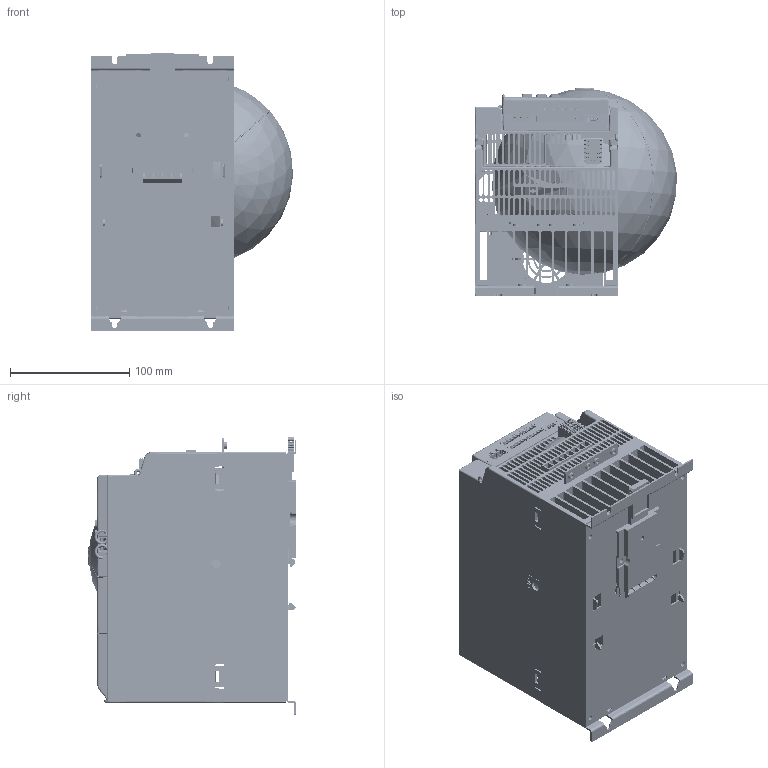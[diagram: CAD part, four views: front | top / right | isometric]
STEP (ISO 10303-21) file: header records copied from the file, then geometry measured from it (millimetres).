
FILE_DESCRIPTION((''),'2;1');
FILE_NAME('D_HOUSING_STO','2018-06-26T10:04:10',('sha2xi'),(''),'CREO PARAMETRIC BY PTC INC, 2017260','CREO PARAMETRIC BY PTC INC, 2017260','');
FILE_SCHEMA(('AUTOMOTIVE_DESIGN { 1 0 10303 214 1 1 1 1 }'));
Products named in the file (42): HEATSINK_6_1_1_1; P_E1_3_1_1_1; P_FAN_COVER1-2014_04_10_3_1_1_1; EFC5610_3KW_CASE_3_1_1_1; PL_EFC5610_IOCAE_CONVER_3_1_1_1; CPU_CONNECTOR-14P_3_1_1_1; CONNECTOR_3_1_1_1; CONNECTOR_TYCO-331_3_1_1_1; 548190519_3_1_1_1; CONNECT2-2_3_1_1_1; 2185-205SY3_3_1_1_1; 1155590000_3_1_1_1; LK_YCP06_3_1_1_1; DB272710_3_1_1_1; 01-IOBACK_CASE_3_1_1_1; LD_KCCT_M3X10_4_1_1_1; E_CONNECTOR_2X5_IO_M_3_1_1_1; 01-IOCASE_3_1_1_1; 01_DISPLAYCASE_3_1_1_1; R911329772_3_1_1_1; R911330025_3_1_1_1; LED_3_1_1_1; CONNECTOR2_3_1_1_1; DISPLAY_PCB_3_1_1_1; BACK_CASE1_3_1_1_1; R911330333_FOLIE_3_1_1_1; BUUTTON_3_1_1_1; XUAN_NIU_3_1_1_1; LABEL_15X50_3_1_1_1; 02-DISPLAY-CASE_3_1_1_1; BOTTOM-PLATE_20170825_2_1_1_1; 00-D-S_5_1_1_1; PRT0010_0423_3_1_1_1; PRT0031_0423_3_1_1_1; DIN-0423_3_1_1_1; STO_2_3_1_1_1; LOGO_REXROTH_3_1_1_1; 00_EFCX610-D-3PH-STO_12_1_1_1; EFC_D-HOUSING_STO_1_1_1; EFCX610_3PH_3_4KW_D_HOUSING_STO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
Assembly tree (50 placements, depth 9):
  D_HOUSING_STO
    D_HOUSING_STO_1
      EFCX610_3PH_3_4KW_D_HOUSING_STO
        EFC_D-HOUSING_STO_1_1_1
          00_EFCX610-D-3PH-STO_12_1_1_1
            00-D-S_5_1_1_1
              HEATSINK_6_1_1_1
              P_E1_3_1_1_1
              P_FAN_COVER1-2014_04_10_3_1_1_1
              EFC5610_3KW_CASE_3_1_1_1
              01-IOCASE_3_1_1_1
                PL_EFC5610_IOCAE_CONVER_3_1_1_1
                LK_YCP06_3_1_1_1
                  CPU_CONNECTOR-14P_3_1_1_1
                  CONNECTOR_3_1_1_1
                  CONNECTOR_TYCO-331_3_1_1_1
                  548190519_3_1_1_1
                  CONNECT2-2_3_1_1_1
                  2185-205SY3_3_1_1_1
                  1155590000_3_1_1_1
                DB272710_3_1_1_1
                01-IOBACK_CASE_3_1_1_1
                LD_KCCT_M3X10_4_1_1_1  x2
                E_CONNECTOR_2X5_IO_M_3_1_1_1
              02-DISPLAY-CASE_3_1_1_1
                01_DISPLAYCASE_3_1_1_1
                DISPLAY_PCB_3_1_1_1
                  R911329772_3_1_1_1  x6
                  R911330025_3_1_1_1
                  LED_3_1_1_1
                  CONNECTOR2_3_1_1_1
                  CONNECTOR_TYCO-331_3_1_1_1
                BACK_CASE1_3_1_1_1
                R911330333_FOLIE_3_1_1_1
                BUUTTON_3_1_1_1
                XUAN_NIU_3_1_1_1
                LD_KCCT_M3X10_4_1_1_1  x2
                LABEL_15X50_3_1_1_1
              BOTTOM-PLATE_20170825_2_1_1_1
            DIN-0423_3_1_1_1
              PRT0010_0423_3_1_1_1
              PRT0031_0423_3_1_1_1
            STO_2_3_1_1_1
            LOGO_REXROTH_3_1_1_1
Bounding box: 169.52 x 175.05 x 233.5 mm (x, y, z)
Surface area: 748256.9 mm2 (no closed solid volume)
Topology: 0 solids, 0 shells, 10093 faces, 54524 edges, 54024 vertices
Faces by surface type: bspline 9596, torus 341, sphere 156
Entity records: 1130758 total; most frequent: CARTESIAN_POINT 367255, DIRECTION 90265, TRIMMED_CURVE 84160, VECTOR 79279, LINE 79279, PRESENTATION_STYLE_ASSIGNMENT 59199, STYLED_ITEM 59197, CURVE_STYLE 49828
